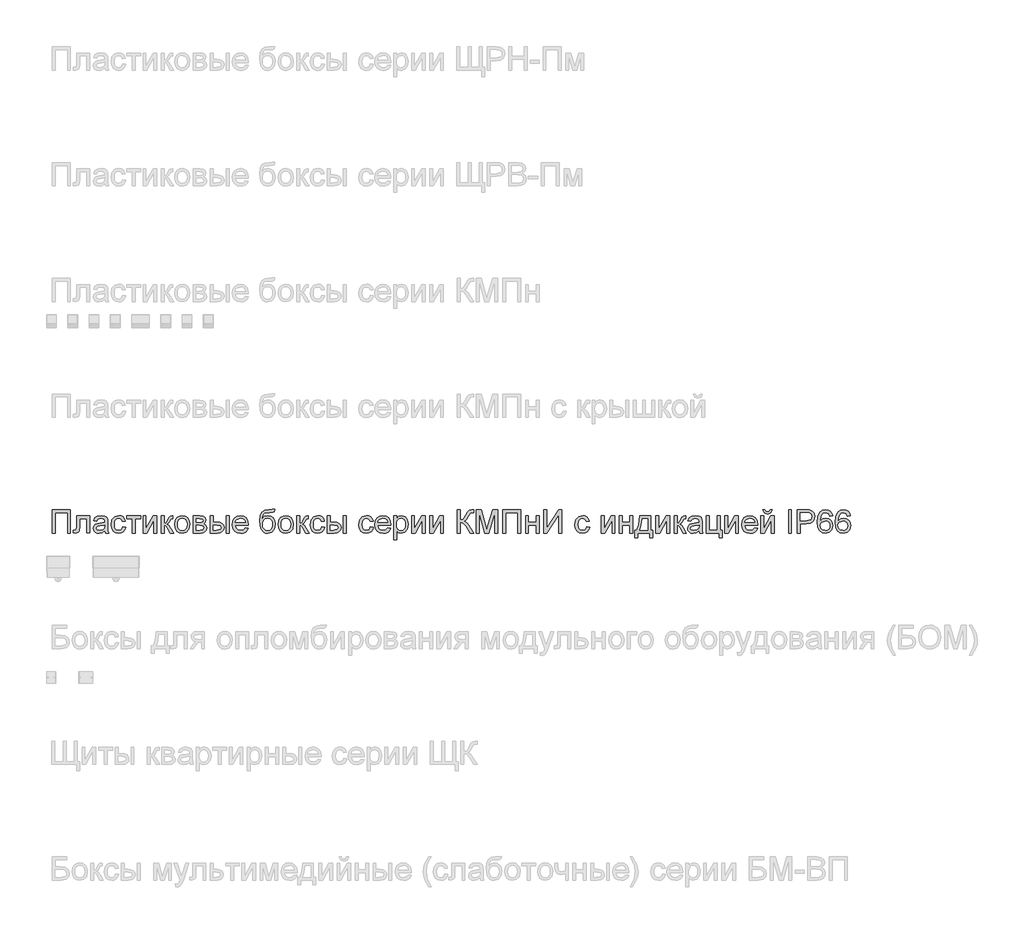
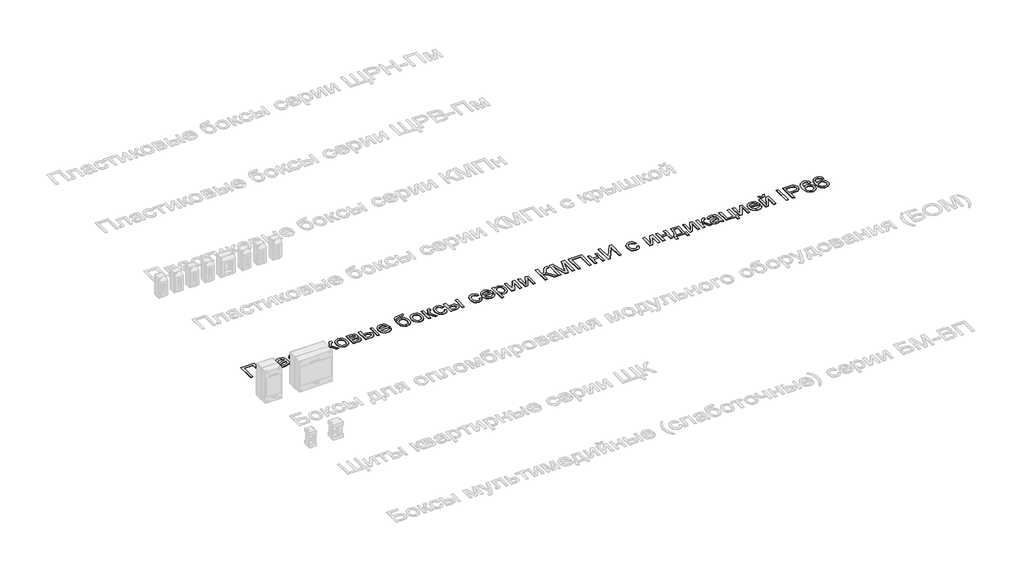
# One storey, part 21 of 25: 1 proxy.
"""IFC4 building model written with IfcOpenShell, lengths in millimetres."""

import ifcopenshell
import ifcopenshell.guid

model = None  # the IFC model being written
_history = None  # IfcOwnerHistory: only IFC2X3 demands one
_inside = {}  # id of a spatial element -> (the spatial element, [elements in it])
_under = {}  # id of a project, library or spatial element -> (it, [spatial elements below it])
_declared = {}  # id of a project -> (the project, [libraries it declares])
_typed = {}  # id of a type object -> (the type object, [elements of that type])
_made_of = {}  # id of a material, layer set ... -> (it, [elements and type objects made of it])


def new_model(schema):
    """Start an empty IFC model of exactly this schema.

    Asked for "IFC4X3", IfcOpenShell would pick the latest addendum, in which some entities
    have other attributes; the version numbers below select the first issue.
    IFC2X3 requires an IfcOwnerHistory on every rooted entity: one is made here for all.
    """
    global model, _history
    if schema == "IFC4X3":
        model = ifcopenshell.file(schema_version=(4, 3, 0, 0))
    else:
        model = ifcopenshell.file(schema=schema)
    _inside.clear()
    _under.clear()
    _declared.clear()
    _typed.clear()
    _made_of.clear()
    _history = None
    if model.schema == "IFC2X3":
        org = make("IfcOrganization", Name="unknown")
        user = make(
            "IfcPersonAndOrganization",
            ThePerson=make("IfcPerson", FamilyName="unknown"),
            TheOrganization=org,
        )
        app = make(
            "IfcApplication",
            ApplicationDeveloper=org,
            Version="unknown",
            ApplicationFullName="unknown",
            ApplicationIdentifier="unknown",
        )
        _history = make(
            "IfcOwnerHistory",
            OwningUser=user,
            OwningApplication=app,
            ChangeAction="ADDED",
            CreationDate=0,
        )
    return model


def make(cls, **values):
    """One entity of the class cls with the attributes given. An attribute that is None is left unset."""
    return model.create_entity(
        cls, **{name: value for name, value in values.items() if value is not None}
    )


def rooted(cls, **values):
    """An entity with a GlobalId (a new one), such as an element, a storey or a relation."""
    return make(cls, GlobalId=ifcopenshell.guid.new(), OwnerHistory=_history, **values)


def si_unit(unit_type, name, prefix=None):
    """IfcSIUnit, for example si_unit("LENGTHUNIT", "METRE", prefix="MILLI")."""
    return make("IfcSIUnit", UnitType=unit_type, Prefix=prefix, Name=name)


def assignment(units):
    """IfcUnitAssignment: the units of a project."""
    return None if units is None else make("IfcUnitAssignment", Units=units)


def point(xyz):
    """IfcCartesianPoint."""
    return None if xyz is None else make("IfcCartesianPoint", Coordinates=xyz)


def direction(xyz):
    """IfcDirection."""
    return None if xyz is None else make("IfcDirection", DirectionRatios=xyz)


def frame(location, z_axis=None, x_axis=None):
    """IfcAxis2Placement3D, a coordinate frame: its origin and axes. An axis left out is left unset."""
    return make(
        "IfcAxis2Placement3D",
        Location=point(location),
        Axis=direction(z_axis),
        RefDirection=direction(x_axis),
    )


def origin():
    """The frame at (0, 0, 0) with its axes left unset."""
    return frame((0.0, 0.0, 0.0))


def place(relative_to, where):
    """IfcLocalPlacement: puts the frame where relative to a parent placement (None: the world)."""
    return make(
        "IfcLocalPlacement", PlacementRelTo=relative_to, RelativePlacement=where
    )


def context(
    kind, dimensions, precision=None, world=None, true_north=None, identifier=None
):
    """IfcGeometricRepresentationContext, for example the 3D "Model" context."""
    return make(
        "IfcGeometricRepresentationContext",
        ContextIdentifier=identifier,
        ContextType=kind,
        CoordinateSpaceDimension=dimensions,
        Precision=precision,
        WorldCoordinateSystem=world,
        TrueNorth=true_north,
    )


def project(units=None, contexts=None):
    """IfcProject with its units and contexts."""
    return rooted(
        "IfcProject",
        Name="project",
        RepresentationContexts=contexts,
        UnitsInContext=assignment(units),
    )


def spatial(cls, under=None, at=None, **own):
    """A site, building, storey or space (cls), placed at a placement, below another one or the project."""
    s = rooted(cls, ObjectPlacement=at, **own)
    if under is not None:
        _under.setdefault(under.id(), (under, []))[1].append(s)
    return s


def polyline(points):
    """IfcPolyline through the points."""
    return make("IfcPolyline", Points=[point(p) for p in points])


def outline(outer, holes=None, kind="AREA"):
    """IfcArbitraryClosedProfileDef: a profile drawn as a closed curve; with holes, ...WithVoids."""
    if holes is None:
        return make("IfcArbitraryClosedProfileDef", ProfileType=kind, OuterCurve=outer)
    return make(
        "IfcArbitraryProfileDefWithVoids",
        ProfileType=kind,
        OuterCurve=outer,
        InnerCurves=holes,
    )


def extrude(swept, where, along, depth):
    """IfcExtrudedAreaSolid: the profile swept, set in the frame where, extruded along a direction by depth."""
    return make(
        "IfcExtrudedAreaSolid",
        SweptArea=swept,
        Position=where,
        ExtrudedDirection=direction(along),
        Depth=depth,
    )


def shape(context_of_items, identifier, shape_type, items):
    """IfcShapeRepresentation: the items that make up one representation, for example the "Body"."""
    return make(
        "IfcShapeRepresentation",
        ContextOfItems=context_of_items,
        RepresentationIdentifier=identifier,
        RepresentationType=shape_type,
        Items=items,
    )


def made_of(thing, what):
    """Note that an element or type object is made of a material, layer set ...; save() writes the relation."""
    if what is not None:
        _made_of.setdefault(what.id(), (what, []))[1].append(thing)
    return thing


def element(
    cls,
    number,
    at=None,
    inside=None,
    cuts=None,
    type_object=None,
    material=None,
    context=None,
    identifier="Body",
    shape_type=None,
    held_by="IfcProductDefinitionShape",
    body=None,
    shapes=None,
    **own,
):
    """One element of the class cls, such as IfcWall. Its Tag is "e" and its number.

    at: its placement. inside: the storey or other place that contains it. cuts: it is an
    opening in that element (IfcRelVoidsElement). A single representation is given by context,
    identifier, shape_type and body (its items); several are given by shapes. held_by: the class
    of the entity that holds the representations. save() writes the other relations.
    """
    e = rooted(cls, Tag="e%d" % number, ObjectPlacement=at, **own)
    if body is not None:
        shapes = [shape(context, identifier, shape_type, body)]
    if shapes is not None:
        e.Representation = make(held_by, Representations=shapes)
    if inside is not None:
        _inside.setdefault(inside.id(), (inside, []))[1].append(e)
    if cuts is not None:
        rooted(
            "IfcRelVoidsElement", RelatingBuildingElement=cuts, RelatedOpeningElement=e
        )
    if type_object is not None:
        _typed.setdefault(type_object.id(), (type_object, []))[1].append(e)
    return made_of(e, material)


def aggregate(whole, parts):
    """IfcRelAggregates: a whole, such as a stair, and the parts it consists of."""
    return rooted("IfcRelAggregates", RelatingObject=whole, RelatedObjects=parts)


def save(model, path):
    """Write the relations noted so far, then the file.

    IfcRelAggregates (storeys below a building ...), IfcRelContainedInSpatialStructure (elements
    in a storey), IfcRelDefinesByType, IfcRelAssociatesMaterial and IfcRelDeclares: one each for
    every whole, place, type object, material and project.
    """
    for whole, parts in _under.values():
        aggregate(whole, parts)
    for where, things in _inside.values():
        rooted(
            "IfcRelContainedInSpatialStructure",
            RelatedElements=things,
            RelatingStructure=where,
        )
    for kind, things in _typed.values():
        rooted("IfcRelDefinesByType", RelatedObjects=things, RelatingType=kind)
    for what, things in _made_of.values():
        rooted("IfcRelAssociatesMaterial", RelatedObjects=things, RelatingMaterial=what)
    for by, libraries in _declared.values():
        rooted("IfcRelDeclares", RelatingContext=by, RelatedDefinitions=libraries)
    model.write(path)


model = new_model("IFC4")

# Units and contexts
model_context = context("Model", 3, world=origin())
ifc_project = project(units=[si_unit("LENGTHUNIT", "METRE", prefix="MILLI")], contexts=[model_context])

# Site, building, storey
site = spatial("IfcSite", under=ifc_project)
building = spatial("IfcBuilding", under=site)
storey = spatial("IfcBuildingStorey", under=building, Name="Этаж 01", Elevation=0.0)

# Proxy
placement = place(None, origin())
element("IfcBuildingElementProxy", 1, Name="Надпись на модели 1", ObjectType="Надпись на модели 1", at=placement, inside=storey, context=model_context, shape_type="SweptSolid", body=[
    extrude(outline(polyline([(-19038.1210387, 15136.6915941), (-18959.6395464, 15136.6915941), (-18959.6395464, 15036.235284), (-18972.1965852, 15036.235284), (-18972.1965852, 15124.1345554), (-19025.564, 15124.1345554), (-19025.564, 15036.235284), (-19038.1210387, 15036.235284), (-19038.1210387, 15136.6915941)])), frame((0.0, 0.0, 40.0), z_axis=(0.0, 0.0, 1.0), x_axis=(1.0, 0.0, 0.0)), (0.0, 0.0, 1.0), 2.0),
    extrude(outline(polyline([(-18932.955839, 15110.0078868), (-18876.4491646, 15110.0078868), (-18876.4491646, 15036.3088604), (-18889.0062033, 15036.3088604), (-18889.0062033, 15097.450848), (-18920.3988003, 15097.450848), (-18920.3988003, 15062.2568038), (-18921.2449289, 15046.0209451), (-18925.8925047, 15039.1660772), (-18936.8799137, 15036.235284), (-18947.0825077, 15036.8729461), (-18947.0825077, 15048.7923228), (-18941.4661759, 15048.7923228), (-18935.7885304, 15049.564875), (-18933.5199248, 15052.0174216), (-18932.955839, 15062.9680423), (-18932.955839, 15110.0078868)])), frame((0.0, 0.0, 40.0), z_axis=(0.0, 0.0, 1.0), x_axis=(1.0, 0.0, 0.0)), (0.0, 0.0, 1.0), 2.0),
    extrude(outline(polyline([(-18810.524711, 15045.6530631), (-18822.7016051, 15037.1427262), (-18836.1538234, 15034.6656541), (-18846.6476573, 15036.1555762), (-18854.3885076, 15040.6253425), (-18859.1617765, 15047.4127653), (-18860.7528661, 15055.8556571), (-18858.3493704, 15065.7884709), (-18852.0340628, 15072.998958), (-18843.2416831, 15077.1192364), (-18832.3769016, 15079.0076973), (-18810.5982874, 15083.3241794), (-18810.524711, 15086.1200825), (-18813.9828018, 15095.3907088), (-18827.8642158, 15099.0204778), (-18840.5684073, 15096.6047194), (-18846.6261975, 15088.0330689), (-18859.1832363, 15089.6026988), (-18853.7508455, 15101.8654319), (-18842.8124875, 15109.0513936), (-18826.245535, 15111.5775166), (-18811.0274831, 15109.3456992), (-18802.4313072, 15103.7416301), (-18798.5808089, 15095.2190306), (-18797.9676723, 15084.2316216), (-18797.9676723, 15068.6088996), (-18797.3300102, 15046.7934973), (-18794.8284126, 15036.235284), (-18807.3854514, 15036.235284), (-18810.524711, 15045.6530631)]), holes=[polyline([(-18810.524711, 15070.7671406), (-18830.7827462, 15066.9166424), (-18841.5862142, 15064.8810287), (-18846.4790447, 15061.5700907), (-18848.1958274, 15056.7385739), (-18844.4556937, 15049.9450197), (-18833.4805475, 15047.2226929), (-18820.776356, 15050.2270625), (-18812.5848502, 15057.4988633), (-18810.5982874, 15067.210948), (-18810.524711, 15070.7671406)])]), frame((0.0, 0.0, 40.0), z_axis=(0.0, 0.0, 1.0), x_axis=(1.0, 0.0, 0.0)), (0.0, 0.0, 1.0), 2.0),
    extrude(outline(polyline([(-18733.6128486, 15062.9189914), (-18721.0558098, 15061.3493615), (-18724.5568201, 15050.1810773), (-18731.1357765, 15041.7412512), (-18740.1734108, 15036.4345534), (-18751.0504552, 15034.6656541), (-18764.4076373, 15037.1335292), (-18774.8524202, 15044.5371544), (-18781.5938578, 15056.5515672), (-18783.8410037, 15072.8518052), (-18780.0027682, 15093.7107144), (-18768.3041207, 15107.1138817), (-18751.2221334, 15111.5775166), (-18740.6118035, 15110.044675), (-18732.1290579, 15105.44615), (-18726.0436765, 15098.0271964), (-18722.6254397, 15088.0330689), (-18735.1824784, 15086.4634391), (-18741.0072767, 15095.8689554), (-18751.1240316, 15099.0204778), (-18759.2388952, 15097.4692421), (-18765.6798958, 15092.8155349), (-18769.8829476, 15084.8079701), (-18771.2839649, 15073.1951618), (-18769.9136045, 15061.4260036), (-18765.8025232, 15053.3908477), (-18759.4780185, 15048.7647316), (-18751.4673881, 15047.2226929), (-18739.6338506, 15051.0731911), (-18733.6128486, 15062.9189914)])), frame((0.0, 0.0, 40.0), z_axis=(0.0, 0.0, 1.0), x_axis=(1.0, 0.0, 0.0)), (0.0, 0.0, 1.0), 2.0),
    extrude(outline(polyline([(-18716.3469203, 15110.0078868), (-18656.7009861, 15110.0078868), (-18656.7009861, 15097.450848), (-18680.2454338, 15097.450848), (-18680.2454338, 15036.235284), (-18692.8024726, 15036.235284), (-18692.8024726, 15097.450848), (-18716.3469203, 15097.450848), (-18716.3469203, 15110.0078868)])), frame((0.0, 0.0, 40.0), z_axis=(0.0, 0.0, 1.0), x_axis=(1.0, 0.0, 0.0)), (0.0, 0.0, 1.0), 2.0),
    extrude(outline(polyline([(-18645.7135772, 15110.0078868), (-18633.1565384, 15110.0078868), (-18633.1565384, 15053.746467), (-18602.3035018, 15110.0078868), (-18586.0676431, 15110.0078868), (-18586.0676431, 15036.235284), (-18598.6246818, 15036.235284), (-18598.6246818, 15092.1533473), (-18629.2815148, 15036.235284), (-18645.7135772, 15036.235284), (-18645.7135772, 15110.0078868)])), frame((0.0, 0.0, 40.0), z_axis=(0.0, 0.0, 1.0), x_axis=(1.0, 0.0, 0.0)), (0.0, 0.0, 1.0), 2.0),
    extrude(outline(polyline([(-18567.2320849, 15110.0078868), (-18554.6750461, 15110.0078868), (-18554.6750461, 15078.6152898), (-18546.2628112, 15080.8716327), (-18539.3711551, 15094.0172827), (-18533.6444587, 15105.3603109), (-18528.5922127, 15109.0513936), (-18519.4074255, 15110.0078868), (-18517.0039298, 15110.0078868), (-18517.0039298, 15097.3772716), (-18520.3884442, 15097.450848), (-18526.5198108, 15096.1264728), (-18530.8362928, 15087.8613906), (-18535.9008016, 15078.9218582), (-18543.0009242, 15074.5440624), (-18535.0791985, 15069.6573633), (-18527.3046257, 15059.3627988), (-18513.8646701, 15036.235284), (-18528.1384915, 15036.235284), (-18541.308667, 15058.8722894), (-18547.9305429, 15068.449484), (-18554.6750461, 15070.7671406), (-18554.6750461, 15036.235284), (-18567.2320849, 15036.235284), (-18567.2320849, 15110.0078868)])), frame((0.0, 0.0, 40.0), z_axis=(0.0, 0.0, 1.0), x_axis=(1.0, 0.0, 0.0)), (0.0, 0.0, 1.0), 2.0),
    extrude(outline(polyline([(-18509.1557806, 15073.1215854), (-18506.4395852, 15090.9086798), (-18498.290999, 15103.4105363), (-18488.2232951, 15109.5357715), (-18476.1690284, 15111.5775166), (-18462.9773932, 15109.0912475), (-18452.4406397, 15101.63244), (-18445.5336552, 15089.7897054), (-18443.2313271, 15074.151655), (-18447.3025545, 15051.8089551), (-18459.1606175, 15039.1660772), (-18476.1690284, 15034.6656541), (-18489.5200791, 15037.1427262), (-18500.0445698, 15044.5739426), (-18506.8779779, 15056.6649975), (-18509.1557806, 15073.1215854)]), holes=[polyline([(-18496.5987418, 15073.1461108), (-18495.1456079, 15061.7816229), (-18490.7862063, 15053.6851533), (-18484.2256441, 15048.838308), (-18476.1690284, 15047.2226929), (-18468.1492009, 15048.8475051), (-18461.6009014, 15053.7219415), (-18457.2414997, 15061.92571), (-18455.7883658, 15073.5385183), (-18457.2506968, 15084.5719125), (-18461.6376896, 15092.5580175), (-18468.1951861, 15097.4048627), (-18476.1690284, 15099.0204778), (-18484.2256441, 15097.4109941), (-18490.7862063, 15092.5825429), (-18495.1456079, 15084.5044674), (-18496.5987418, 15073.1461108)])]), frame((0.0, 0.0, 40.0), z_axis=(0.0, 0.0, 1.0), x_axis=(1.0, 0.0, 0.0)), (0.0, 0.0, 1.0), 2.0),
    extrude(outline(polyline([(-18429.1046584, 15110.0078868), (-18401.4399324, 15110.0078868), (-18386.2709315, 15108.3278923), (-18377.7360692, 15102.1720003), (-18374.1676138, 15091.4421087), (-18376.3258549, 15082.7233055), (-18382.8251035, 15076.5060997), (-18374.388343, 15069.7002828), (-18371.0283541, 15057.8667453), (-18373.1559383, 15048.2956821), (-18378.2143158, 15041.5573102), (-18386.2218805, 15037.5657905), (-18397.1970267, 15036.235284), (-18429.1046584, 15036.235284), (-18429.1046584, 15110.0078868)]), holes=[polyline([(-18416.5476197, 15048.7923228), (-18401.1456268, 15048.7923228), (-18387.4849421, 15051.0609284), (-18383.5853929, 15058.8968149), (-18385.7313712, 15064.9423424), (-18391.3231775, 15068.4617468), (-18402.3719001, 15069.1975108), (-18416.5476197, 15069.1975108), (-18416.5476197, 15048.7923228)]), polyline([(-18416.5476197, 15081.7545495), (-18404.1377337, 15081.7545495), (-18393.8983515, 15082.3922117), (-18388.9196818, 15084.9428602), (-18386.7246526, 15089.5536478), (-18390.5751508, 15095.7095399), (-18403.7453262, 15097.450848), (-18416.5476197, 15097.450848), (-18416.5476197, 15081.7545495)])]), frame((0.0, 0.0, 40.0), z_axis=(0.0, 0.0, 1.0), x_axis=(1.0, 0.0, 0.0)), (0.0, 0.0, 1.0), 2.0),
    extrude(outline(polyline([(-18286.2683425, 15110.0078868), (-18273.7113037, 15110.0078868), (-18273.7113037, 15036.235284), (-18286.2683425, 15036.235284), (-18286.2683425, 15110.0078868)])), frame((0.0, 0.0, 40.0), z_axis=(0.0, 0.0, 1.0), x_axis=(1.0, 0.0, 0.0)), (0.0, 0.0, 1.0), 2.0),
    extrude(outline(polyline([(-18355.3320557, 15110.0078868), (-18342.7750169, 15110.0078868), (-18342.7750169, 15083.3241794), (-18327.2503967, 15083.3241794), (-18313.8319009, 15081.7514838), (-18303.88989, 15077.0333973), (-18297.7370637, 15069.5500643), (-18295.6861215, 15059.6816298), (-18297.4059699, 15050.6961121), (-18302.5655148, 15043.1146773), (-18311.5019816, 15037.9551323), (-18324.5525954, 15036.235284), (-18355.3320557, 15036.235284), (-18355.3320557, 15110.0078868)]), holes=[polyline([(-18342.7750169, 15048.7923228), (-18329.8746216, 15048.7923228), (-18313.22183, 15051.4288104), (-18308.2431603, 15059.6571044), (-18311.934243, 15067.3826263), (-18328.2314154, 15070.7671406), (-18342.7750169, 15070.7671406), (-18342.7750169, 15048.7923228)])]), frame((0.0, 0.0, 40.0), z_axis=(0.0, 0.0, 1.0), x_axis=(1.0, 0.0, 0.0)), (0.0, 0.0, 1.0), 2.0),
    extrude(outline(polyline([(-18203.2251134, 15058.2101018), (-18190.9133293, 15056.640472), (-18195.349373, 15047.3637143), (-18202.4280358, 15040.4291387), (-18211.9899019, 15036.1065253), (-18223.8755561, 15034.6656541), (-18238.60923, 15037.1519233), (-18249.9461268, 15044.6107308), (-18257.175008, 15056.5576985), (-18259.5846351, 15072.5084487), (-18257.1504825, 15088.9956935), (-18249.8480249, 15101.3258717), (-18238.6644123, 15109.0146054), (-18224.5867946, 15111.5775166), (-18210.9475696, 15109.0207367), (-18200.0490655, 15101.3503971), (-18192.9029578, 15089.0447444), (-18190.5209218, 15072.5820251), (-18190.5944982, 15069.1975108), (-18247.0275963, 15069.1975108), (-18244.8540268, 15059.7981258), (-18239.8048465, 15052.8880756), (-18232.5177173, 15048.6390386), (-18223.6303014, 15047.2226929), (-18211.3185173, 15049.8469178), (-18203.2251134, 15058.2101018)]), holes=[polyline([(-18247.0275963, 15081.7545495), (-18203.0779606, 15081.7545495), (-18208.1056812, 15093.1343659), (-18215.4265329, 15097.5489499), (-18224.6358455, 15099.0204778), (-18240.0991521, 15094.323851), (-18244.9643914, 15088.8332123), (-18247.0275963, 15081.7545495)])]), frame((0.0, 0.0, 40.0), z_axis=(0.0, 0.0, 1.0), x_axis=(1.0, 0.0, 0.0)), (0.0, 0.0, 1.0), 2.0),
    extrude(outline(polyline([(-18086.925352, 15138.261224), (-18075.9379431, 15138.261224), (-18079.1753046, 15128.4633002), (-18085.5764513, 15124.9193703), (-18100.9539187, 15124.1345554), (-18121.6656751, 15121.2405503), (-18129.6119262, 15111.9699241), (-18132.2974647, 15095.5623871), (-18121.4204204, 15107.5798656), (-18107.4041164, 15111.5775166), (-18094.3381742, 15109.0360652), (-18083.7370414, 15101.4117108), (-18076.7104953, 15089.4524803), (-18074.3683132, 15073.9064003), (-18079.0158891, 15052.2994644), (-18090.0400862, 15039.2641791), (-18107.4041164, 15034.6656541), (-18118.7379475, 15036.1463792), (-18127.2329559, 15040.5885543), (-18138.0854748, 15055.7452925), (-18141.8623966, 15087.9104416), (-18139.4803607, 15112.0036466), (-18132.3342529, 15126.6974666), (-18120.2462637, 15134.1930623), (-18103.0385834, 15136.6915941), (-18089.0590676, 15136.973637), (-18086.925352, 15138.261224)]), holes=[polyline([(-18086.925352, 15074.2988078), (-18088.2865154, 15084.179505), (-18092.3700055, 15092.0920336), (-18098.9305678, 15097.2883668), (-18107.7229475, 15099.0204778), (-18116.8893405, 15097.1902649), (-18123.689026, 15091.6996261), (-18127.9012749, 15083.1494354), (-18129.3053578, 15072.1405667), (-18127.7541221, 15061.4689232), (-18123.1004149, 15053.6361024), (-18116.1719706, 15048.8260453), (-18107.7965239, 15047.2226929), (-18099.3781575, 15049.0774313), (-18092.7133621, 15054.6416465), (-18088.3723545, 15063.2654136), (-18086.925352, 15074.2988078)])]), frame((0.0, 0.0, 40.0), z_axis=(0.0, 0.0, 1.0), x_axis=(1.0, 0.0, 0.0)), (0.0, 0.0, 1.0), 2.0),
    extrude(outline(polyline([(-18061.8112745, 15073.1215854), (-18059.0950791, 15090.9086798), (-18050.9464929, 15103.4105363), (-18040.8787889, 15109.5357715), (-18028.8245222, 15111.5775166), (-18015.632887, 15109.0912475), (-18005.0961335, 15101.63244), (-17998.1891491, 15089.7897054), (-17995.8868209, 15074.151655), (-17999.9580483, 15051.8089551), (-18011.8161113, 15039.1660772), (-18028.8245222, 15034.6656541), (-18042.175573, 15037.1427262), (-18052.7000637, 15044.5739426), (-18059.5334718, 15056.6649975), (-18061.8112745, 15073.1215854)]), holes=[polyline([(-18049.2542357, 15073.1461108), (-18047.8011018, 15061.7816229), (-18043.4417002, 15053.6851533), (-18036.8811379, 15048.838308), (-18028.8245222, 15047.2226929), (-18020.8046947, 15048.8475051), (-18014.2563952, 15053.7219415), (-18009.8969936, 15061.92571), (-18008.4438597, 15073.5385183), (-18009.9061906, 15084.5719125), (-18014.2931834, 15092.5580175), (-18020.85068, 15097.4048627), (-18028.8245222, 15099.0204778), (-18036.8811379, 15097.4109941), (-18043.4417002, 15092.5825429), (-18047.8011018, 15084.5044674), (-18049.2542357, 15073.1461108)])]), frame((0.0, 0.0, 40.0), z_axis=(0.0, 0.0, 1.0), x_axis=(1.0, 0.0, 0.0)), (0.0, 0.0, 1.0), 2.0),
    extrude(outline(polyline([(-17981.7601523, 15110.0078868), (-17969.2031135, 15110.0078868), (-17969.2031135, 15078.6152898), (-17960.7908786, 15080.8716327), (-17953.8992225, 15094.0172827), (-17948.1725262, 15105.3603109), (-17943.1202801, 15109.0513936), (-17933.9354929, 15110.0078868), (-17931.5319972, 15110.0078868), (-17931.5319972, 15097.3772716), (-17934.9165116, 15097.450848), (-17941.0478782, 15096.1264728), (-17945.3643603, 15087.8613906), (-17950.4288691, 15078.9218582), (-17957.5289916, 15074.5440624), (-17949.6072659, 15069.6573633), (-17941.8326931, 15059.3627988), (-17928.3927375, 15036.235284), (-17942.666559, 15036.235284), (-17955.8367344, 15058.8722894), (-17962.4586103, 15068.449484), (-17969.2031135, 15070.7671406), (-17969.2031135, 15036.235284), (-17981.7601523, 15036.235284), (-17981.7601523, 15110.0078868)])), frame((0.0, 0.0, 40.0), z_axis=(0.0, 0.0, 1.0), x_axis=(1.0, 0.0, 0.0)), (0.0, 0.0, 1.0), 2.0),
    extrude(outline(polyline([(-17873.4556929, 15062.9189914), (-17860.8986542, 15061.3493615), (-17864.3996645, 15050.1810773), (-17870.9786208, 15041.7412512), (-17880.0162552, 15036.4345534), (-17890.8932995, 15034.6656541), (-17904.2504816, 15037.1335292), (-17914.6952646, 15044.5371544), (-17921.4367022, 15056.5515672), (-17923.683848, 15072.8518052), (-17919.8456125, 15093.7107144), (-17908.1469651, 15107.1138817), (-17891.0649778, 15111.5775166), (-17880.4546479, 15110.044675), (-17871.9719022, 15105.44615), (-17865.8865209, 15098.0271964), (-17862.468284, 15088.0330689), (-17875.0253228, 15086.4634391), (-17880.850121, 15095.8689554), (-17890.9668759, 15099.0204778), (-17899.0817396, 15097.4692421), (-17905.5227402, 15092.8155349), (-17909.725792, 15084.8079701), (-17911.1268092, 15073.1951618), (-17909.7564488, 15061.4260036), (-17905.6453675, 15053.3908477), (-17899.3208629, 15048.7647316), (-17891.3102324, 15047.2226929), (-17879.4766949, 15051.0731911), (-17873.4556929, 15062.9189914)])), frame((0.0, 0.0, 40.0), z_axis=(0.0, 0.0, 1.0), x_axis=(1.0, 0.0, 0.0)), (0.0, 0.0, 1.0), 2.0),
    extrude(outline(polyline([(-17780.847532, 15110.0078868), (-17768.2904932, 15110.0078868), (-17768.2904932, 15036.235284), (-17780.847532, 15036.235284), (-17780.847532, 15110.0078868)])), frame((0.0, 0.0, 40.0), z_axis=(0.0, 0.0, 1.0), x_axis=(1.0, 0.0, 0.0)), (0.0, 0.0, 1.0), 2.0),
    extrude(outline(polyline([(-17849.9112452, 15110.0078868), (-17837.3542065, 15110.0078868), (-17837.3542065, 15083.3241794), (-17821.8295863, 15083.3241794), (-17808.4110905, 15081.7514838), (-17798.4690796, 15077.0333973), (-17792.3162532, 15069.5500643), (-17790.2653111, 15059.6816298), (-17791.9851594, 15050.6961121), (-17797.1447044, 15043.1146773), (-17806.0811712, 15037.9551323), (-17819.131785, 15036.235284), (-17849.9112452, 15036.235284), (-17849.9112452, 15110.0078868)]), holes=[polyline([(-17837.3542065, 15048.7923228), (-17824.4538112, 15048.7923228), (-17807.8010195, 15051.4288104), (-17802.8223499, 15059.6571044), (-17806.5134325, 15067.3826263), (-17822.8106049, 15070.7671406), (-17837.3542065, 15070.7671406), (-17837.3542065, 15048.7923228)])]), frame((0.0, 0.0, 40.0), z_axis=(0.0, 0.0, 1.0), x_axis=(1.0, 0.0, 0.0)), (0.0, 0.0, 1.0), 2.0),
    extrude(outline(polyline([(-17663.1252936, 15062.9189914), (-17650.5682548, 15061.3493615), (-17654.0692651, 15050.1810773), (-17660.6482215, 15041.7412512), (-17669.6858558, 15036.4345534), (-17680.5629001, 15034.6656541), (-17693.9200822, 15037.1335292), (-17704.3648652, 15044.5371544), (-17711.1063028, 15056.5515672), (-17713.3534486, 15072.8518052), (-17709.5152131, 15093.7107144), (-17697.8165657, 15107.1138817), (-17680.7345784, 15111.5775166), (-17670.1242485, 15110.044675), (-17661.6415028, 15105.44615), (-17655.5561215, 15098.0271964), (-17652.1378846, 15088.0330689), (-17664.6949234, 15086.4634391), (-17670.5197217, 15095.8689554), (-17680.6364765, 15099.0204778), (-17688.7513402, 15097.4692421), (-17695.1923408, 15092.8155349), (-17699.3953926, 15084.8079701), (-17700.7964099, 15073.1951618), (-17699.4260494, 15061.4260036), (-17695.3149681, 15053.3908477), (-17688.9904635, 15048.7647316), (-17680.9798331, 15047.2226929), (-17669.1462955, 15051.0731911), (-17663.1252936, 15062.9189914)])), frame((0.0, 0.0, 40.0), z_axis=(0.0, 0.0, 1.0), x_axis=(1.0, 0.0, 0.0)), (0.0, 0.0, 1.0), 2.0),
    extrude(outline(polyline([(-17587.9302137, 15058.2101018), (-17575.6184296, 15056.640472), (-17580.0544734, 15047.3637143), (-17587.1331361, 15040.4291387), (-17596.6950023, 15036.1065253), (-17608.5806564, 15034.6656541), (-17623.3143303, 15037.1519233), (-17634.6512271, 15044.6107308), (-17641.8801083, 15056.5576985), (-17644.2897354, 15072.5084487), (-17641.8555829, 15088.9956935), (-17634.5531253, 15101.3258717), (-17623.3695126, 15109.0146054), (-17609.2918949, 15111.5775166), (-17595.65267, 15109.0207367), (-17584.7541658, 15101.3503971), (-17577.6080581, 15089.0447444), (-17575.2260222, 15072.5820251), (-17575.2995986, 15069.1975108), (-17631.7326966, 15069.1975108), (-17629.5591272, 15059.7981258), (-17624.5099468, 15052.8880756), (-17617.2228176, 15048.6390386), (-17608.3354017, 15047.2226929), (-17596.0236176, 15049.8469178), (-17587.9302137, 15058.2101018)]), holes=[polyline([(-17631.7326966, 15081.7545495), (-17587.7830609, 15081.7545495), (-17592.8107815, 15093.1343659), (-17600.1316332, 15097.5489499), (-17609.3409459, 15099.0204778), (-17624.8042524, 15094.323851), (-17629.6694918, 15088.8332123), (-17631.7326966, 15081.7545495)])]), frame((0.0, 0.0, 40.0), z_axis=(0.0, 0.0, 1.0), x_axis=(1.0, 0.0, 0.0)), (0.0, 0.0, 1.0), 2.0),
    extrude(outline(polyline([(-17562.6689834, 15007.9819468), (-17562.6689834, 15110.0078868), (-17550.1119446, 15110.0078868), (-17550.1119446, 15097.6961027), (-17541.4299296, 15108.1071631), (-17529.7067566, 15111.5775166), (-17513.789729, 15106.7214743), (-17503.3909312, 15093.036264), (-17499.8837896, 15073.6856711), (-17503.8446524, 15053.3417968), (-17515.3470961, 15039.4849083), (-17531.2273356, 15034.6656541), (-17542.1534308, 15037.890753), (-17550.1119446, 15046.0454705), (-17550.1119446, 15007.9819468), (-17562.6689834, 15007.9819468)]), holes=[polyline([(-17550.1119446, 15072.5329742), (-17548.7538469, 15061.2757851), (-17544.6795538, 15053.4031104), (-17538.6677489, 15048.7677973), (-17531.4971157, 15047.2226929), (-17524.2099865, 15048.8229796), (-17518.0448974, 15053.6238396), (-17513.8418456, 15061.7846886), (-17512.4408283, 15073.4649419), (-17513.8081231, 15084.6608173), (-17517.9100073, 15092.6438566), (-17523.9126152, 15097.4263225), (-17530.9820809, 15099.0204778), (-17538.0791377, 15097.325155), (-17544.3116718, 15092.2391864), (-17548.6618764, 15083.9219876), (-17550.1119446, 15072.5329742)])]), frame((0.0, 0.0, 40.0), z_axis=(0.0, 0.0, 1.0), x_axis=(1.0, 0.0, 0.0)), (0.0, 0.0, 1.0), 2.0),
    extrude(outline(polyline([(-17485.7571209, 15110.0078868), (-17473.2000822, 15110.0078868), (-17473.2000822, 15053.746467), (-17442.3470455, 15110.0078868), (-17426.1111868, 15110.0078868), (-17426.1111868, 15036.235284), (-17438.6682256, 15036.235284), (-17438.6682256, 15092.1533473), (-17469.3250585, 15036.235284), (-17485.7571209, 15036.235284), (-17485.7571209, 15110.0078868)])), frame((0.0, 0.0, 40.0), z_axis=(0.0, 0.0, 1.0), x_axis=(1.0, 0.0, 0.0)), (0.0, 0.0, 1.0), 2.0),
    extrude(outline(polyline([(-17407.2756286, 15110.0078868), (-17394.7185899, 15110.0078868), (-17394.7185899, 15053.746467), (-17363.8655532, 15110.0078868), (-17347.6296945, 15110.0078868), (-17347.6296945, 15036.235284), (-17360.1867333, 15036.235284), (-17360.1867333, 15092.1533473), (-17390.8435662, 15036.235284), (-17407.2756286, 15036.235284), (-17407.2756286, 15110.0078868)])), frame((0.0, 0.0, 40.0), z_axis=(0.0, 0.0, 1.0), x_axis=(1.0, 0.0, 0.0)), (0.0, 0.0, 1.0), 2.0),
    extrude(outline(polyline([(-17287.9837603, 15136.6915941), (-17275.4267216, 15136.6915941), (-17275.4267216, 15092.7419585), (-17261.3858921, 15096.0651591), (-17251.5879683, 15112.8773663), (-17244.659524, 15126.9181958), (-17236.8113748, 15133.8711655), (-17225.590974, 15136.6915941), (-17217.3504173, 15136.5444413), (-17217.3504173, 15123.9874026), (-17220.121795, 15124.060979), (-17222.8931727, 15124.1345554), (-17232.7033592, 15121.117923), (-17240.159101, 15108.1930022), (-17249.0495825, 15092.4476529), (-17257.7193349, 15087.248254), (-17248.0256443, 15081.5706085), (-17238.4668438, 15069.737071), (-17217.3504173, 15036.235284), (-17231.9185443, 15036.235284), (-17249.7730838, 15064.5376722), (-17262.3423853, 15079.3142656), (-17275.4267216, 15083.3241794), (-17275.4267216, 15036.235284), (-17287.9837603, 15036.235284), (-17287.9837603, 15136.6915941)])), frame((0.0, 0.0, 40.0), z_axis=(0.0, 0.0, 1.0), x_axis=(1.0, 0.0, 0.0)), (0.0, 0.0, 1.0), 2.0),
    extrude(outline(polyline([(-17206.3630083, 15036.235284), (-17206.3630083, 15136.6915941), (-17184.7560725, 15136.6915941), (-17164.2037317, 15065.8865728), (-17160.0589279, 15051.0977166), (-17155.5707675, 15067.1128461), (-17135.3617833, 15136.6915941), (-17113.7548474, 15136.6915941), (-17113.7548474, 15036.235284), (-17126.3118862, 15036.235284), (-17126.3118862, 15124.1345554), (-17151.5485911, 15036.235284), (-17168.5692647, 15036.235284), (-17193.8059696, 15124.1345554), (-17193.8059696, 15036.235284), (-17206.3630083, 15036.235284)])), frame((0.0, 0.0, 40.0), z_axis=(0.0, 0.0, 1.0), x_axis=(1.0, 0.0, 0.0)), (0.0, 0.0, 1.0), 2.0),
    extrude(outline(polyline([(-17091.7800296, 15136.6915941), (-17013.2985373, 15136.6915941), (-17013.2985373, 15036.235284), (-17025.855576, 15036.235284), (-17025.855576, 15124.1345554), (-17079.2229908, 15124.1345554), (-17079.2229908, 15036.235284), (-17091.7800296, 15036.235284), (-17091.7800296, 15136.6915941)])), frame((0.0, 0.0, 40.0), z_axis=(0.0, 0.0, 1.0), x_axis=(1.0, 0.0, 0.0)), (0.0, 0.0, 1.0), 2.0),
    extrude(outline(polyline([(-16992.8933493, 15110.0078868), (-16980.3363105, 15110.0078868), (-16980.3363105, 15081.7545495), (-16947.3740837, 15081.7545495), (-16947.3740837, 15110.0078868), (-16934.817045, 15110.0078868), (-16934.817045, 15036.235284), (-16947.3740837, 15036.235284), (-16947.3740837, 15069.1975108), (-16980.3363105, 15069.1975108), (-16980.3363105, 15036.235284), (-16992.8933493, 15036.235284), (-16992.8933493, 15110.0078868)])), frame((0.0, 0.0, 40.0), z_axis=(0.0, 0.0, 1.0), x_axis=(1.0, 0.0, 0.0)), (0.0, 0.0, 1.0), 2.0),
    extrude(outline(polyline([(-16914.411857, 15136.6915941), (-16901.8548182, 15136.6915941), (-16901.8548182, 15057.1309813), (-16849.2722184, 15136.6915941), (-16835.9303647, 15136.6915941), (-16835.9303647, 15036.235284), (-16848.4874034, 15036.235284), (-16848.4874034, 15115.5751676), (-16900.9473759, 15036.235284), (-16914.411857, 15036.235284), (-16914.411857, 15136.6915941)])), frame((0.0, 0.0, 40.0), z_axis=(0.0, 0.0, 1.0), x_axis=(1.0, 0.0, 0.0)), (0.0, 0.0, 1.0), 2.0),
    extrude(outline(polyline([(-16729.1955351, 15062.9189914), (-16716.6384964, 15061.3493615), (-16720.1395067, 15050.1810773), (-16726.718463, 15041.7412512), (-16735.7560974, 15036.4345534), (-16746.6331417, 15034.6656541), (-16759.9903238, 15037.1335292), (-16770.4351068, 15044.5371544), (-16777.1765444, 15056.5515672), (-16779.4236902, 15072.8518052), (-16775.5854547, 15093.7107144), (-16763.8868073, 15107.1138817), (-16746.80482, 15111.5775166), (-16736.1944901, 15110.044675), (-16727.7117444, 15105.44615), (-16721.6263631, 15098.0271964), (-16718.2081262, 15088.0330689), (-16730.765165, 15086.4634391), (-16736.5899632, 15095.8689554), (-16746.7067181, 15099.0204778), (-16754.8215818, 15097.4692421), (-16761.2625824, 15092.8155349), (-16765.4656342, 15084.8079701), (-16766.8666514, 15073.1951618), (-16765.496291, 15061.4260036), (-16761.3852097, 15053.3908477), (-16755.0607051, 15048.7647316), (-16747.0500746, 15047.2226929), (-16735.2165371, 15051.0731911), (-16729.1955351, 15062.9189914)])), frame((0.0, 0.0, 40.0), z_axis=(0.0, 0.0, 1.0), x_axis=(1.0, 0.0, 0.0)), (0.0, 0.0, 1.0), 2.0),
    extrude(outline(polyline([(-16666.4103413, 15110.0078868), (-16653.8533025, 15110.0078868), (-16653.8533025, 15053.746467), (-16623.0002659, 15110.0078868), (-16606.7644071, 15110.0078868), (-16606.7644071, 15036.235284), (-16619.3214459, 15036.235284), (-16619.3214459, 15092.1533473), (-16649.9782788, 15036.235284), (-16666.4103413, 15036.235284), (-16666.4103413, 15110.0078868)])), frame((0.0, 0.0, 40.0), z_axis=(0.0, 0.0, 1.0), x_axis=(1.0, 0.0, 0.0)), (0.0, 0.0, 1.0), 2.0),
    extrude(outline(polyline([(-16587.928849, 15110.0078868), (-16575.3718102, 15110.0078868), (-16575.3718102, 15081.7545495), (-16542.4095834, 15081.7545495), (-16542.4095834, 15110.0078868), (-16529.8525447, 15110.0078868), (-16529.8525447, 15036.235284), (-16542.4095834, 15036.235284), (-16542.4095834, 15069.1975108), (-16575.3718102, 15069.1975108), (-16575.3718102, 15036.235284), (-16587.928849, 15036.235284), (-16587.928849, 15110.0078868)])), frame((0.0, 0.0, 40.0), z_axis=(0.0, 0.0, 1.0), x_axis=(1.0, 0.0, 0.0)), (0.0, 0.0, 1.0), 2.0),
    extrude(outline(polyline([(-16500.0295776, 15110.0078868), (-16452.9406822, 15110.0078868), (-16452.9406822, 15048.7923228), (-16443.5229031, 15048.7923228), (-16443.5229031, 15015.830096), (-16456.0799419, 15015.830096), (-16456.0799419, 15036.235284), (-16507.8777268, 15036.235284), (-16507.8777268, 15015.830096), (-16520.4347656, 15015.830096), (-16520.4347656, 15048.7923228), (-16512.5866164, 15048.7923228), (-16502.8867944, 15072.7414406), (-16500.0295776, 15110.0078868)]), holes=[polyline([(-16489.0421687, 15097.450848), (-16491.9852246, 15068.8418915), (-16498.4599478, 15048.7923228), (-16465.497721, 15048.7923228), (-16465.497721, 15097.450848), (-16489.0421687, 15097.450848)])]), frame((0.0, 0.0, 40.0), z_axis=(0.0, 0.0, 1.0), x_axis=(1.0, 0.0, 0.0)), (0.0, 0.0, 1.0), 2.0),
    extrude(outline(polyline([(-16429.3962345, 15110.0078868), (-16416.8391958, 15110.0078868), (-16416.8391958, 15053.746467), (-16385.9861591, 15110.0078868), (-16369.7503004, 15110.0078868), (-16369.7503004, 15036.235284), (-16382.3073391, 15036.235284), (-16382.3073391, 15092.1533473), (-16412.9641721, 15036.235284), (-16429.3962345, 15036.235284), (-16429.3962345, 15110.0078868)])), frame((0.0, 0.0, 40.0), z_axis=(0.0, 0.0, 1.0), x_axis=(1.0, 0.0, 0.0)), (0.0, 0.0, 1.0), 2.0),
    extrude(outline(polyline([(-16350.9147422, 15110.0078868), (-16338.3577035, 15110.0078868), (-16338.3577035, 15078.6152898), (-16329.9454685, 15080.8716327), (-16323.0538125, 15094.0172827), (-16317.3271161, 15105.3603109), (-16312.27487, 15109.0513936), (-16303.0900829, 15110.0078868), (-16300.6865872, 15110.0078868), (-16300.6865872, 15097.3772716), (-16304.0711015, 15097.450848), (-16310.2024681, 15096.1264728), (-16314.5189502, 15087.8613906), (-16319.583459, 15078.9218582), (-16326.6835815, 15074.5440624), (-16318.7618558, 15069.6573633), (-16310.987283, 15059.3627988), (-16297.5473275, 15036.235284), (-16311.8211489, 15036.235284), (-16324.9913243, 15058.8722894), (-16331.6132002, 15068.449484), (-16338.3577035, 15070.7671406), (-16338.3577035, 15036.235284), (-16350.9147422, 15036.235284), (-16350.9147422, 15110.0078868)])), frame((0.0, 0.0, 40.0), z_axis=(0.0, 0.0, 1.0), x_axis=(1.0, 0.0, 0.0)), (0.0, 0.0, 1.0), 2.0),
    extrude(outline(polyline([(-16242.6102828, 15045.6530631), (-16254.7871769, 15037.1427262), (-16268.2393952, 15034.6656541), (-16278.7332291, 15036.1555762), (-16286.4740794, 15040.6253425), (-16291.2473483, 15047.4127653), (-16292.8384379, 15055.8556571), (-16290.4349422, 15065.7884709), (-16284.1196346, 15072.998958), (-16275.327255, 15077.1192364), (-16264.4624734, 15079.0076973), (-16242.6838592, 15083.3241794), (-16242.6102828, 15086.1200825), (-16246.0683736, 15095.3907088), (-16259.9497876, 15099.0204778), (-16272.6539791, 15096.6047194), (-16278.7117693, 15088.0330689), (-16291.2688081, 15089.6026988), (-16285.8364173, 15101.8654319), (-16274.8980593, 15109.0513936), (-16258.3311068, 15111.5775166), (-16243.1130549, 15109.3456992), (-16234.516879, 15103.7416301), (-16230.6663807, 15095.2190306), (-16230.0532441, 15084.2316216), (-16230.0532441, 15068.6088996), (-16229.415582, 15046.7934973), (-16226.9139844, 15036.235284), (-16239.4710232, 15036.235284), (-16242.6102828, 15045.6530631)]), holes=[polyline([(-16242.6102828, 15070.7671406), (-16262.868318, 15066.9166424), (-16273.671786, 15064.8810287), (-16278.5646165, 15061.5700907), (-16280.2813992, 15056.7385739), (-16276.5412655, 15049.9450197), (-16265.5661193, 15047.2226929), (-16252.8619278, 15050.2270625), (-16244.670422, 15057.4988633), (-16242.6838592, 15067.210948), (-16242.6102828, 15070.7671406)])]), frame((0.0, 0.0, 40.0), z_axis=(0.0, 0.0, 1.0), x_axis=(1.0, 0.0, 0.0)), (0.0, 0.0, 1.0), 2.0),
    extrude(outline(polyline([(-16212.7873158, 15110.0078868), (-16200.230277, 15110.0078868), (-16200.230277, 15048.7923228), (-16164.1287905, 15048.7923228), (-16164.1287905, 15110.0078868), (-16151.5717518, 15110.0078868), (-16151.5717518, 15048.7923228), (-16143.7236025, 15048.7923228), (-16143.7236025, 15015.830096), (-16156.2806413, 15015.830096), (-16156.2806413, 15036.235284), (-16212.7873158, 15036.235284), (-16212.7873158, 15110.0078868)])), frame((0.0, 0.0, 40.0), z_axis=(0.0, 0.0, 1.0), x_axis=(1.0, 0.0, 0.0)), (0.0, 0.0, 1.0), 2.0),
    extrude(outline(polyline([(-16132.7361936, 15110.0078868), (-16120.1791549, 15110.0078868), (-16120.1791549, 15053.746467), (-16089.3261182, 15110.0078868), (-16073.0902595, 15110.0078868), (-16073.0902595, 15036.235284), (-16085.6472982, 15036.235284), (-16085.6472982, 15092.1533473), (-16116.3041312, 15036.235284), (-16132.7361936, 15036.235284), (-16132.7361936, 15110.0078868)])), frame((0.0, 0.0, 40.0), z_axis=(0.0, 0.0, 1.0), x_axis=(1.0, 0.0, 0.0)), (0.0, 0.0, 1.0), 2.0),
    extrude(outline(polyline([(-16002.6040692, 15058.2101018), (-15990.2922851, 15056.640472), (-15994.7283288, 15047.3637143), (-16001.8069915, 15040.4291387), (-16011.3688577, 15036.1065253), (-16023.2545119, 15034.6656541), (-16037.9881858, 15037.1519233), (-16049.3250826, 15044.6107308), (-16056.5539638, 15056.5576985), (-16058.9635909, 15072.5084487), (-16056.5294383, 15088.9956935), (-16049.2269807, 15101.3258717), (-16038.0433681, 15109.0146054), (-16023.9657504, 15111.5775166), (-16010.3265254, 15109.0207367), (-15999.4280213, 15101.3503971), (-15992.2819135, 15089.0447444), (-15989.8998776, 15072.5820251), (-15989.973454, 15069.1975108), (-16046.4065521, 15069.1975108), (-16044.2329826, 15059.7981258), (-16039.1838022, 15052.8880756), (-16031.8966731, 15048.6390386), (-16023.0092572, 15047.2226929), (-16010.6974731, 15049.8469178), (-16002.6040692, 15058.2101018)]), holes=[polyline([(-16046.4065521, 15081.7545495), (-16002.4569164, 15081.7545495), (-16007.484637, 15093.1343659), (-16014.8054887, 15097.5489499), (-16024.0148013, 15099.0204778), (-16039.4781078, 15094.323851), (-16044.3433472, 15088.8332123), (-16046.4065521, 15081.7545495)])]), frame((0.0, 0.0, 40.0), z_axis=(0.0, 0.0, 1.0), x_axis=(1.0, 0.0, 0.0)), (0.0, 0.0, 1.0), 2.0),
    extrude(outline(polyline([(-15977.3428389, 15110.0078868), (-15964.7858001, 15110.0078868), (-15964.7858001, 15053.746467), (-15933.9327634, 15110.0078868), (-15917.6969047, 15110.0078868), (-15917.6969047, 15036.235284), (-15930.2539435, 15036.235284), (-15930.2539435, 15092.1533473), (-15960.9107764, 15036.235284), (-15977.3428389, 15036.235284), (-15977.3428389, 15110.0078868)])), frame((0.0, 0.0, 40.0), z_axis=(0.0, 0.0, 1.0), x_axis=(1.0, 0.0, 0.0)), (0.0, 0.0, 1.0), 2.0),
    extrude(outline(polyline([(-15936.5324629, 15136.6915941), (-15927.1146838, 15136.6915941), (-15933.2092622, 15122.7243411), (-15946.7350569, 15117.856036), (-15961.3767603, 15122.6875529), (-15967.9250598, 15136.6915941), (-15958.5072807, 15136.6915941), (-15954.9756136, 15129.6159971), (-15947.8632283, 15127.2738151), (-15940.06413, 15129.5424207), (-15936.5324629, 15136.6915941)])), frame((0.0, 0.0, 40.0), z_axis=(0.0, 0.0, 1.0), x_axis=(1.0, 0.0, 0.0)), (0.0, 0.0, 1.0), 2.0),
    extrude(outline(polyline([(-15856.4813407, 15036.235284), (-15856.4813407, 15136.6915941), (-15843.9243019, 15136.6915941), (-15843.9243019, 15036.235284), (-15856.4813407, 15036.235284)])), frame((0.0, 0.0, 40.0), z_axis=(0.0, 0.0, 1.0), x_axis=(1.0, 0.0, 0.0)), (0.0, 0.0, 1.0), 2.0),
    extrude(outline(polyline([(-15818.8102244, 15036.235284), (-15818.8102244, 15136.6915941), (-15781.5805665, 15136.6915941), (-15766.5709811, 15135.735101), (-15754.3695616, 15131.0384742), (-15746.4600987, 15121.3263895), (-15743.4679918, 15107.6289165), (-15745.4882771, 15095.7892476), (-15751.549133, 15085.9238788), (-15762.8829641, 15079.2652147), (-15780.7221752, 15077.04566), (-15806.2531856, 15077.04566), (-15806.2531856, 15036.235284), (-15818.8102244, 15036.235284)]), holes=[polyline([(-15806.2531856, 15089.6026988), (-15779.9864112, 15089.6026988), (-15761.4942096, 15094.2134864), (-15757.3923253, 15099.7623732), (-15756.0250306, 15107.1874581), (-15759.2501294, 15117.5862559), (-15767.723678, 15123.2761641), (-15780.2807168, 15124.1345554), (-15806.2531856, 15124.1345554), (-15806.2531856, 15089.6026988)])]), frame((0.0, 0.0, 40.0), z_axis=(0.0, 0.0, 1.0), x_axis=(1.0, 0.0, 0.0)), (0.0, 0.0, 1.0), 2.0),
    extrude(outline(polyline([(-15666.5561293, 15110.0078868), (-15679.1131681, 15108.4382569), (-15683.8711086, 15118.910631), (-15696.4526728, 15124.1345554), (-15707.7834383, 15121.0933975), (-15716.3550887, 15109.676793), (-15719.9235441, 15087.2973049), (-15708.850296, 15097.3159579), (-15695.1282976, 15100.5901077), (-15683.527752, 15098.3521589), (-15673.7911419, 15091.6383125), (-15667.1876601, 15081.3805362), (-15664.9864995, 15068.5107977), (-15669.1313033, 15051.1835557), (-15680.5356451, 15038.9208226), (-15696.9922331, 15034.6656541), (-15711.2384633, 15037.4860828), (-15722.5845572, 15045.9473687), (-15730.0065764, 15060.8833777), (-15732.4805829, 15083.1279756), (-15729.7337306, 15108.13782), (-15721.4931739, 15125.2382014), (-15710.2421163, 15133.8282459), (-15695.6678579, 15136.6915941), (-15684.6497921, 15134.9196292), (-15675.8267556, 15129.6037344), (-15669.6463381, 15121.1608426), (-15666.5561293, 15110.0078868)]), holes=[polyline([(-15719.9235441, 15068.7070014), (-15717.0172763, 15057.8299571), (-15709.2917544, 15049.9327569), (-15697.9732517, 15047.2226929), (-15689.6867098, 15048.6267759), (-15683.1721328, 15052.8390247), (-15678.9506869, 15059.4609006), (-15677.5435383, 15068.0938648), (-15678.9322928, 15076.3804067), (-15683.0985564, 15082.69878), (-15689.723498, 15086.6994967), (-15698.4882865, 15088.0330689), (-15713.6818129, 15082.69878), (-15718.3631113, 15076.5336909), (-15719.9235441, 15068.7070014)])]), frame((0.0, 0.0, 40.0), z_axis=(0.0, 0.0, 1.0), x_axis=(1.0, 0.0, 0.0)), (0.0, 0.0, 1.0), 2.0),
    extrude(outline(polyline([(-15589.6442669, 15110.0078868), (-15602.2013056, 15108.4382569), (-15606.9592461, 15118.910631), (-15619.5408103, 15124.1345554), (-15630.8715758, 15121.0933975), (-15639.4432263, 15109.676793), (-15643.0116816, 15087.2973049), (-15631.9384336, 15097.3159579), (-15618.2164352, 15100.5901077), (-15606.6158896, 15098.3521589), (-15596.8792794, 15091.6383125), (-15590.2757976, 15081.3805362), (-15588.074637, 15068.5107977), (-15592.2194408, 15051.1835557), (-15603.6237827, 15038.9208226), (-15620.0803706, 15034.6656541), (-15634.3266009, 15037.4860828), (-15645.6726947, 15045.9473687), (-15653.094714, 15060.8833777), (-15655.5687204, 15083.1279756), (-15652.8218682, 15108.13782), (-15644.5813115, 15125.2382014), (-15633.3302538, 15133.8282459), (-15618.7559954, 15136.6915941), (-15607.7379297, 15134.9196292), (-15598.9148932, 15129.6037344), (-15592.7344756, 15121.1608426), (-15589.6442669, 15110.0078868)]), holes=[polyline([(-15643.0116816, 15068.7070014), (-15640.1054139, 15057.8299571), (-15632.379892, 15049.9327569), (-15621.0613893, 15047.2226929), (-15612.7748473, 15048.6267759), (-15606.2602703, 15052.8390247), (-15602.0388244, 15059.4609006), (-15600.6316758, 15068.0938648), (-15602.0204303, 15076.3804067), (-15606.1866939, 15082.69878), (-15612.8116355, 15086.6994967), (-15621.5764241, 15088.0330689), (-15636.7699505, 15082.69878), (-15641.4512488, 15076.5336909), (-15643.0116816, 15068.7070014)])]), frame((0.0, 0.0, 40.0), z_axis=(0.0, 0.0, 1.0), x_axis=(1.0, 0.0, 0.0)), (0.0, 0.0, 1.0), 2.0),
])

save(model, "model.ifc")
